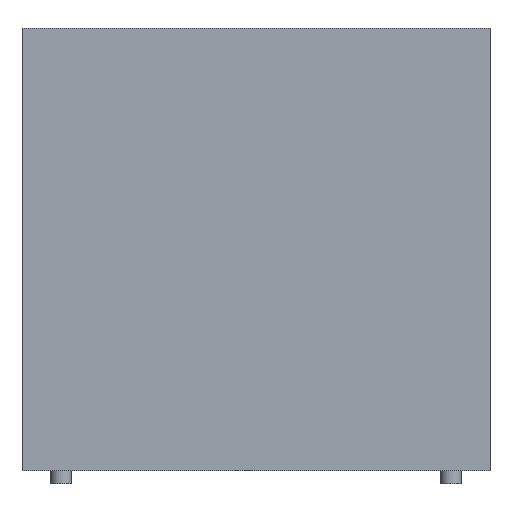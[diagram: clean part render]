
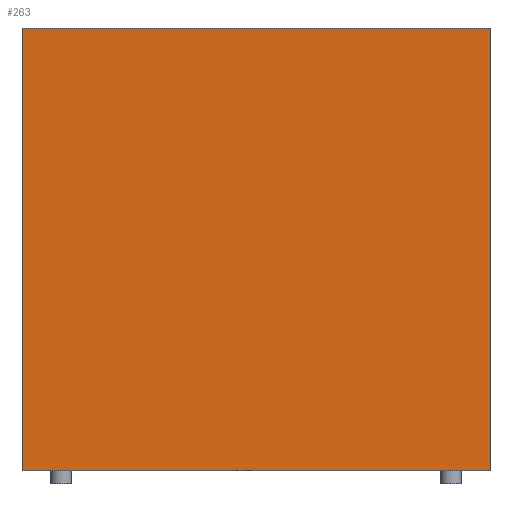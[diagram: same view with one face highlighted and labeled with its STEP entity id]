
A CAD part, front view. The second image highlights one B-rep face of the part: STEP entity #263.
In plain terms, the highlighted planar face has unit normal (0, -1, 0).
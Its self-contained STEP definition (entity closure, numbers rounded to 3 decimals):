
#47 = EDGE_CURVE('',#48,#50,#52,.T.);
#48 = VERTEX_POINT('',#49);
#49 = CARTESIAN_POINT('',(-1.5,-4.5,0.5));
#50 = VERTEX_POINT('',#51);
#51 = CARTESIAN_POINT('',(-1.5,-4.5,17.5));
#52 = SURFACE_CURVE('',#53,(#57,#69),.PCURVE_S1.);
#53 = LINE('',#54,#55);
#54 = CARTESIAN_POINT('',(-1.5,-4.5,0.5));
#55 = VECTOR('',#56,1.);
#56 = DIRECTION('',(0.,0.,1.));
#57 = PCURVE('',#58,#63);
#58 = PLANE('',#59);
#59 = AXIS2_PLACEMENT_3D('',#60,#61,#62);
#60 = CARTESIAN_POINT('',(-1.5,-4.5,0.5));
#61 = DIRECTION('',(1.,0.,-0.));
#62 = DIRECTION('',(0.,0.,1.));
#63 = DEFINITIONAL_REPRESENTATION('',(#64),#68);
#64 = LINE('',#65,#66);
#65 = CARTESIAN_POINT('',(0.,0.));
#66 = VECTOR('',#67,1.);
#67 = DIRECTION('',(1.,0.));
#68 = ( GEOMETRIC_REPRESENTATION_CONTEXT(2) 
PARAMETRIC_REPRESENTATION_CONTEXT() REPRESENTATION_CONTEXT('2D SPACE',''
  ) );
#69 = PCURVE('',#70,#75);
#70 = PLANE('',#71);
#71 = AXIS2_PLACEMENT_3D('',#72,#73,#74);
#72 = CARTESIAN_POINT('',(-1.5,-4.5,0.5));
#73 = DIRECTION('',(-0.,1.,0.));
#74 = DIRECTION('',(0.,0.,1.));
#75 = DEFINITIONAL_REPRESENTATION('',(#76),#80);
#76 = LINE('',#77,#78);
#77 = CARTESIAN_POINT('',(0.,0.));
#78 = VECTOR('',#79,1.);
#79 = DIRECTION('',(1.,0.));
#80 = ( GEOMETRIC_REPRESENTATION_CONTEXT(2) 
PARAMETRIC_REPRESENTATION_CONTEXT() REPRESENTATION_CONTEXT('2D SPACE',''
  ) );
#98 = PLANE('',#99);
#99 = AXIS2_PLACEMENT_3D('',#100,#101,#102);
#100 = CARTESIAN_POINT('',(-1.5,-4.5,0.5));
#101 = DIRECTION('',(0.,0.,1.));
#102 = DIRECTION('',(1.,0.,-0.));
#152 = PLANE('',#153);
#153 = AXIS2_PLACEMENT_3D('',#154,#155,#156);
#154 = CARTESIAN_POINT('',(-1.5,-4.5,17.5));
#155 = DIRECTION('',(0.,0.,1.));
#156 = DIRECTION('',(1.,0.,-0.));
#167 = EDGE_CURVE('',#168,#170,#172,.T.);
#168 = VERTEX_POINT('',#169);
#169 = CARTESIAN_POINT('',(16.5,-4.5,0.5));
#170 = VERTEX_POINT('',#171);
#171 = CARTESIAN_POINT('',(16.5,-4.5,17.5));
#172 = SURFACE_CURVE('',#173,(#177,#189),.PCURVE_S1.);
#173 = LINE('',#174,#175);
#174 = CARTESIAN_POINT('',(16.5,-4.5,0.5));
#175 = VECTOR('',#176,1.);
#176 = DIRECTION('',(0.,0.,1.));
#177 = PCURVE('',#178,#183);
#178 = PLANE('',#179);
#179 = AXIS2_PLACEMENT_3D('',#180,#181,#182);
#180 = CARTESIAN_POINT('',(16.5,-4.5,0.5));
#181 = DIRECTION('',(1.,0.,-0.));
#182 = DIRECTION('',(0.,0.,1.));
#183 = DEFINITIONAL_REPRESENTATION('',(#184),#188);
#184 = LINE('',#185,#186);
#185 = CARTESIAN_POINT('',(0.,0.));
#186 = VECTOR('',#187,1.);
#187 = DIRECTION('',(1.,0.));
#188 = ( GEOMETRIC_REPRESENTATION_CONTEXT(2) 
PARAMETRIC_REPRESENTATION_CONTEXT() REPRESENTATION_CONTEXT('2D SPACE',''
  ) );
#189 = PCURVE('',#70,#190);
#190 = DEFINITIONAL_REPRESENTATION('',(#191),#195);
#191 = LINE('',#192,#193);
#192 = CARTESIAN_POINT('',(0.,18.));
#193 = VECTOR('',#194,1.);
#194 = DIRECTION('',(1.,0.));
#195 = ( GEOMETRIC_REPRESENTATION_CONTEXT(2) 
PARAMETRIC_REPRESENTATION_CONTEXT() REPRESENTATION_CONTEXT('2D SPACE',''
  ) );
#263 = ADVANCED_FACE('',(#264),#70,.F.);
#264 = FACE_BOUND('',#265,.F.);
#265 = EDGE_LOOP('',(#266,#287,#288,#309));
#266 = ORIENTED_EDGE('',*,*,#267,.F.);
#267 = EDGE_CURVE('',#48,#168,#268,.T.);
#268 = SURFACE_CURVE('',#269,(#273,#280),.PCURVE_S1.);
#269 = LINE('',#270,#271);
#270 = CARTESIAN_POINT('',(-1.5,-4.5,0.5));
#271 = VECTOR('',#272,1.);
#272 = DIRECTION('',(1.,0.,-0.));
#273 = PCURVE('',#70,#274);
#274 = DEFINITIONAL_REPRESENTATION('',(#275),#279);
#275 = LINE('',#276,#277);
#276 = CARTESIAN_POINT('',(0.,0.));
#277 = VECTOR('',#278,1.);
#278 = DIRECTION('',(0.,1.));
#279 = ( GEOMETRIC_REPRESENTATION_CONTEXT(2) 
PARAMETRIC_REPRESENTATION_CONTEXT() REPRESENTATION_CONTEXT('2D SPACE',''
  ) );
#280 = PCURVE('',#98,#281);
#281 = DEFINITIONAL_REPRESENTATION('',(#282),#286);
#282 = LINE('',#283,#284);
#283 = CARTESIAN_POINT('',(0.,0.));
#284 = VECTOR('',#285,1.);
#285 = DIRECTION('',(1.,0.));
#286 = ( GEOMETRIC_REPRESENTATION_CONTEXT(2) 
PARAMETRIC_REPRESENTATION_CONTEXT() REPRESENTATION_CONTEXT('2D SPACE',''
  ) );
#287 = ORIENTED_EDGE('',*,*,#47,.T.);
#288 = ORIENTED_EDGE('',*,*,#289,.T.);
#289 = EDGE_CURVE('',#50,#170,#290,.T.);
#290 = SURFACE_CURVE('',#291,(#295,#302),.PCURVE_S1.);
#291 = LINE('',#292,#293);
#292 = CARTESIAN_POINT('',(-1.5,-4.5,17.5));
#293 = VECTOR('',#294,1.);
#294 = DIRECTION('',(1.,0.,-0.));
#295 = PCURVE('',#70,#296);
#296 = DEFINITIONAL_REPRESENTATION('',(#297),#301);
#297 = LINE('',#298,#299);
#298 = CARTESIAN_POINT('',(17.,0.));
#299 = VECTOR('',#300,1.);
#300 = DIRECTION('',(0.,1.));
#301 = ( GEOMETRIC_REPRESENTATION_CONTEXT(2) 
PARAMETRIC_REPRESENTATION_CONTEXT() REPRESENTATION_CONTEXT('2D SPACE',''
  ) );
#302 = PCURVE('',#152,#303);
#303 = DEFINITIONAL_REPRESENTATION('',(#304),#308);
#304 = LINE('',#305,#306);
#305 = CARTESIAN_POINT('',(0.,0.));
#306 = VECTOR('',#307,1.);
#307 = DIRECTION('',(1.,0.));
#308 = ( GEOMETRIC_REPRESENTATION_CONTEXT(2) 
PARAMETRIC_REPRESENTATION_CONTEXT() REPRESENTATION_CONTEXT('2D SPACE',''
  ) );
#309 = ORIENTED_EDGE('',*,*,#167,.F.);
